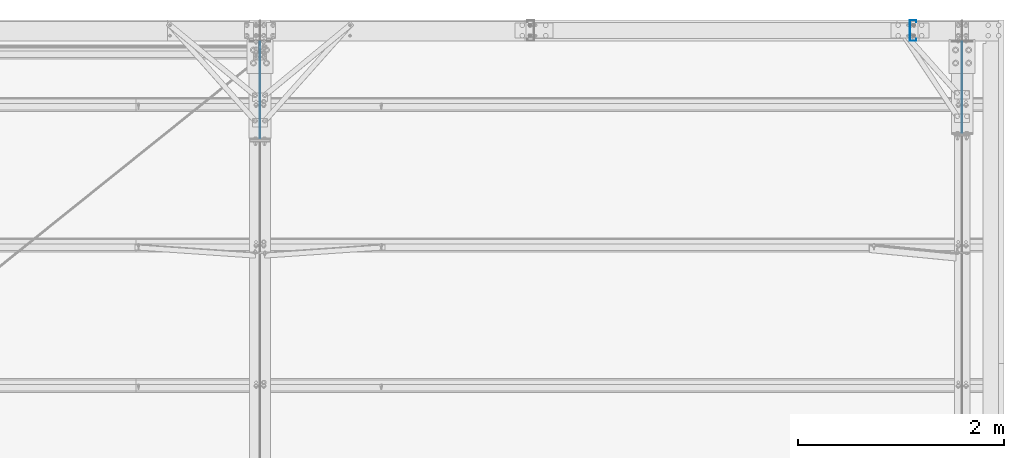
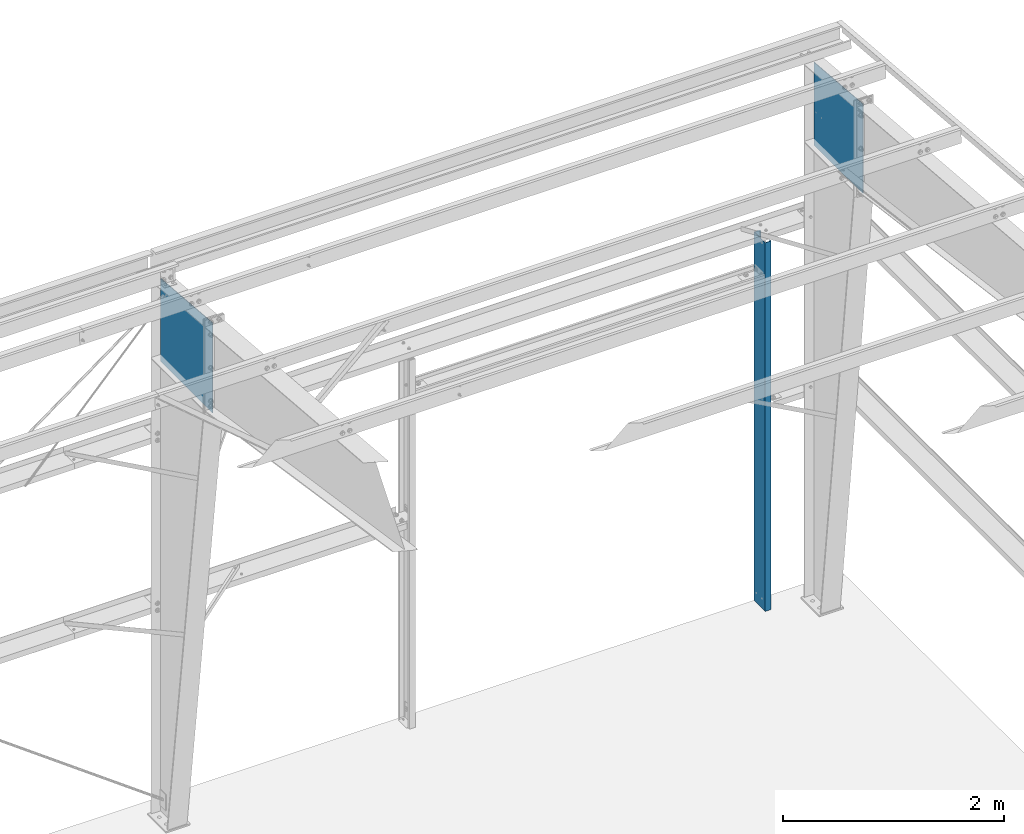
# One storey, part 5 of 185: 3 columns, 3 elements without a shape of their own.
"""IFC2X3 building model written with IfcOpenShell, lengths in millimetres."""

import ifcopenshell
import ifcopenshell.guid

model = None  # the IFC model being written
_history = None  # IfcOwnerHistory: only IFC2X3 demands one
_inside = {}  # id of a spatial element -> (the spatial element, [elements in it])
_under = {}  # id of a project, library or spatial element -> (it, [spatial elements below it])
_declared = {}  # id of a project -> (the project, [libraries it declares])
_typed = {}  # id of a type object -> (the type object, [elements of that type])
_made_of = {}  # id of a material, layer set ... -> (it, [elements and type objects made of it])


def new_model(schema):
    """Start an empty IFC model of exactly this schema.

    Asked for "IFC4X3", IfcOpenShell would pick the latest addendum, in which some entities
    have other attributes; the version numbers below select the first issue.
    IFC2X3 requires an IfcOwnerHistory on every rooted entity: one is made here for all.
    """
    global model, _history
    if schema == "IFC4X3":
        model = ifcopenshell.file(schema_version=(4, 3, 0, 0))
    else:
        model = ifcopenshell.file(schema=schema)
    _inside.clear()
    _under.clear()
    _declared.clear()
    _typed.clear()
    _made_of.clear()
    _history = None
    if model.schema == "IFC2X3":
        org = make("IfcOrganization", Name="unknown")
        user = make(
            "IfcPersonAndOrganization",
            ThePerson=make("IfcPerson", FamilyName="unknown"),
            TheOrganization=org,
        )
        app = make(
            "IfcApplication",
            ApplicationDeveloper=org,
            Version="unknown",
            ApplicationFullName="unknown",
            ApplicationIdentifier="unknown",
        )
        _history = make(
            "IfcOwnerHistory",
            OwningUser=user,
            OwningApplication=app,
            ChangeAction="ADDED",
            CreationDate=0,
        )
    return model


def make(cls, **values):
    """One entity of the class cls with the attributes given. An attribute that is None is left unset."""
    return model.create_entity(
        cls, **{name: value for name, value in values.items() if value is not None}
    )


def rooted(cls, **values):
    """An entity with a GlobalId (a new one), such as an element, a storey or a relation."""
    return make(cls, GlobalId=ifcopenshell.guid.new(), OwnerHistory=_history, **values)


def si_unit(unit_type, name, prefix=None):
    """IfcSIUnit, for example si_unit("LENGTHUNIT", "METRE", prefix="MILLI")."""
    return make("IfcSIUnit", UnitType=unit_type, Prefix=prefix, Name=name)


def assignment(units):
    """IfcUnitAssignment: the units of a project."""
    return None if units is None else make("IfcUnitAssignment", Units=units)


def point(xyz):
    """IfcCartesianPoint."""
    return None if xyz is None else make("IfcCartesianPoint", Coordinates=xyz)


def direction(xyz):
    """IfcDirection."""
    return None if xyz is None else make("IfcDirection", DirectionRatios=xyz)


def frame(location, z_axis=None, x_axis=None):
    """IfcAxis2Placement3D, a coordinate frame: its origin and axes. An axis left out is left unset."""
    return make(
        "IfcAxis2Placement3D",
        Location=point(location),
        Axis=direction(z_axis),
        RefDirection=direction(x_axis),
    )


def frame_2d(location, x_axis=None):
    """IfcAxis2Placement2D, a coordinate frame in the plane: its origin and x axis."""
    return make(
        "IfcAxis2Placement2D", Location=point(location), RefDirection=direction(x_axis)
    )


def origin_with_axes():
    """The frame at (0, 0, 0) with the z axis (0, 0, 1) and the x axis (1, 0, 0) written out."""
    return frame((0.0, 0.0, 0.0), z_axis=(0.0, 0.0, 1.0), x_axis=(1.0, 0.0, 0.0))


def origin_2d_with_axis():
    """The frame at (0, 0) in the plane with the x axis (1, 0) written out."""
    return frame_2d((0.0, 0.0), x_axis=(1.0, 0.0))


def place(relative_to, where):
    """IfcLocalPlacement: puts the frame where relative to a parent placement (None: the world)."""
    return make(
        "IfcLocalPlacement", PlacementRelTo=relative_to, RelativePlacement=where
    )


def context(
    kind, dimensions, precision=None, world=None, true_north=None, identifier=None
):
    """IfcGeometricRepresentationContext, for example the 3D "Model" context."""
    return make(
        "IfcGeometricRepresentationContext",
        ContextIdentifier=identifier,
        ContextType=kind,
        CoordinateSpaceDimension=dimensions,
        Precision=precision,
        WorldCoordinateSystem=world,
        TrueNorth=true_north,
    )


def subcontext(parent, identifier, kind, view, scale=None):
    """IfcGeometricRepresentationSubContext, for example "Body" below "Model"."""
    return make(
        "IfcGeometricRepresentationSubContext",
        ContextIdentifier=identifier,
        ContextType=kind,
        ParentContext=parent,
        TargetScale=scale,
        TargetView=view,
    )


def project(units=None, contexts=None):
    """IfcProject with its units and contexts."""
    return rooted(
        "IfcProject",
        Name="project",
        RepresentationContexts=contexts,
        UnitsInContext=assignment(units),
    )


def spatial(cls, under=None, at=None, **own):
    """A site, building, storey or space (cls), placed at a placement, below another one or the project."""
    s = rooted(cls, ObjectPlacement=at, **own)
    if under is not None:
        _under.setdefault(under.id(), (under, []))[1].append(s)
    return s


def polyline(points):
    """IfcPolyline through the points."""
    return make("IfcPolyline", Points=[point(p) for p in points])


def profile(cls, at=None, kind="AREA", **sizes):
    """A parametric profile (cls). Its sizes go by their IFC names, for example OverallWidth=200.0."""
    return make(cls, ProfileType=kind, Position=at, **sizes)


def rectangle(**sizes):
    """IfcRectangleProfileDef."""
    return profile("IfcRectangleProfileDef", **sizes)


def outline(outer, holes=None, kind="AREA"):
    """IfcArbitraryClosedProfileDef: a profile drawn as a closed curve; with holes, ...WithVoids."""
    if holes is None:
        return make("IfcArbitraryClosedProfileDef", ProfileType=kind, OuterCurve=outer)
    return make(
        "IfcArbitraryProfileDefWithVoids",
        ProfileType=kind,
        OuterCurve=outer,
        InnerCurves=holes,
    )


def extrude(swept, where, along, depth):
    """IfcExtrudedAreaSolid: the profile swept, set in the frame where, extruded along a direction by depth."""
    return make(
        "IfcExtrudedAreaSolid",
        SweptArea=swept,
        Position=where,
        ExtrudedDirection=direction(along),
        Depth=depth,
    )


def clip(a, b, op="DIFFERENCE"):
    """IfcBooleanClippingResult: the solid a cut by the half space b."""
    return make(
        "IfcBooleanClippingResult", Operator=op, FirstOperand=a, SecondOperand=b
    )


def halfspace(plane, agree):
    """IfcHalfSpaceSolid: all space on one side of the plane z = 0 of the frame plane."""
    return make(
        "IfcHalfSpaceSolid",
        BaseSurface=make("IfcPlane", Position=plane),
        AgreementFlag=agree,
    )


def shape(context_of_items, identifier, shape_type, items):
    """IfcShapeRepresentation: the items that make up one representation, for example the "Body"."""
    return make(
        "IfcShapeRepresentation",
        ContextOfItems=context_of_items,
        RepresentationIdentifier=identifier,
        RepresentationType=shape_type,
        Items=items,
    )


def material(Name=None, Category=None):
    """IfcMaterial."""
    return make("IfcMaterial", Name=Name, Category=Category)


def made_of(thing, what):
    """Note that an element or type object is made of a material, layer set ...; save() writes the relation."""
    if what is not None:
        _made_of.setdefault(what.id(), (what, []))[1].append(thing)
    return thing


def type_object(cls, material=None, **own):
    """A type object (cls), such as IfcWallType, which elements share."""
    return made_of(rooted(cls, **own), material)


def element(
    cls,
    number,
    at=None,
    inside=None,
    cuts=None,
    type_object=None,
    material=None,
    context=None,
    identifier="Body",
    shape_type=None,
    held_by="IfcProductDefinitionShape",
    body=None,
    shapes=None,
    **own,
):
    """One element of the class cls, such as IfcWall. Its Tag is "e" and its number.

    at: its placement. inside: the storey or other place that contains it. cuts: it is an
    opening in that element (IfcRelVoidsElement). A single representation is given by context,
    identifier, shape_type and body (its items); several are given by shapes. held_by: the class
    of the entity that holds the representations. save() writes the other relations.
    """
    e = rooted(cls, Tag="e%d" % number, ObjectPlacement=at, **own)
    if body is not None:
        shapes = [shape(context, identifier, shape_type, body)]
    if shapes is not None:
        e.Representation = make(held_by, Representations=shapes)
    if inside is not None:
        _inside.setdefault(inside.id(), (inside, []))[1].append(e)
    if cuts is not None:
        rooted(
            "IfcRelVoidsElement", RelatingBuildingElement=cuts, RelatedOpeningElement=e
        )
    if type_object is not None:
        _typed.setdefault(type_object.id(), (type_object, []))[1].append(e)
    return made_of(e, material)


def aggregate(whole, parts):
    """IfcRelAggregates: a whole, such as a stair, and the parts it consists of."""
    return rooted("IfcRelAggregates", RelatingObject=whole, RelatedObjects=parts)


def save(model, path):
    """Write the relations noted so far, then the file.

    IfcRelAggregates (storeys below a building ...), IfcRelContainedInSpatialStructure (elements
    in a storey), IfcRelDefinesByType, IfcRelAssociatesMaterial and IfcRelDeclares: one each for
    every whole, place, type object, material and project.
    """
    for whole, parts in _under.values():
        aggregate(whole, parts)
    for where, things in _inside.values():
        rooted(
            "IfcRelContainedInSpatialStructure",
            RelatedElements=things,
            RelatingStructure=where,
        )
    for kind, things in _typed.values():
        rooted("IfcRelDefinesByType", RelatedObjects=things, RelatingType=kind)
    for what, things in _made_of.values():
        rooted("IfcRelAssociatesMaterial", RelatedObjects=things, RelatingMaterial=what)
    for by, libraries in _declared.values():
        rooted("IfcRelDeclares", RelatingContext=by, RelatedDefinitions=libraries)
    model.write(path)


model = new_model("IFC2X3")

# Units and contexts
model_context = context("Model", 3, precision=1e-05, world=origin_with_axes())
body_context = subcontext(model_context, "Body", "Model", "MODEL_VIEW")
ifc_project = project(units=[si_unit("LENGTHUNIT", "METRE", prefix="MILLI"), si_unit("AREAUNIT", "SQUARE_METRE"), si_unit("VOLUMEUNIT", "CUBIC_METRE"), si_unit("MASSUNIT", "GRAM", prefix="KILO"), si_unit("TIMEUNIT", "SECOND"), si_unit("PLANEANGLEUNIT", "RADIAN"), si_unit("SOLIDANGLEUNIT", "STERADIAN"), si_unit("THERMODYNAMICTEMPERATUREUNIT", "DEGREE_CELSIUS"), si_unit("LUMINOUSINTENSITYUNIT", "LUMEN")], contexts=[model_context])

# Site, building, storey
site_placement = place(None, origin_with_axes())
site = spatial("IfcSite", under=ifc_project, at=site_placement, Name="Undefined", CompositionType="ELEMENT")
building_placement = place(site_placement, origin_with_axes())
building = spatial("IfcBuilding", under=site, at=building_placement, Name="Undefined", CompositionType="ELEMENT")
storey_placement = place(building_placement, origin_with_axes())
storey = spatial("IfcBuildingStorey", under=building, at=storey_placement, Name="Undefined", CompositionType="ELEMENT", Elevation=0.0)

# Assembly, column
assembly_1_placement = place(storey_placement, origin_with_axes())
assembly_1 = element("IfcElementAssembly", 1, at=assembly_1_placement, inside=storey, Name="Steel Assembly", AssemblyPlace="NOTDEFINED", PredefinedType="RIGID_FRAME")
ifc_material = material(Name="STEEL/55")
column_type_1 = type_object("IfcColumnType", Name="8C16", PredefinedType="NOTDEFINED")
column_1_placement = place(assembly_1_placement, frame((44075.35, 31902.4, 0.0), z_axis=(0.0, 0.0, 1.0), x_axis=(0.0, 1.0, 0.0)))
column_1 = element("IfcColumn", 2, at=column_1_placement, type_object=column_type_1, material=ifc_material, Name="Jamb", ObjectType="8C16", context=body_context, shape_type="Clipping", body=[
    clip(extrude(outline(polyline([(-31.75, 79.370002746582), (-31.75, 101.599998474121), (31.75, 101.599998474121), (31.75, -101.599998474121), (-31.75, -101.599998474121), (-31.75, -79.379997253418), (-28.5699996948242, -79.379997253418), (-28.5699996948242, -98.4300003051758), (28.5699996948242, -98.4300003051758), (28.5699996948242, 98.4199981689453), (-28.5699996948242, 98.4199981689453), (-28.5699996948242, 79.370002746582), (-31.75, 79.370002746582)])), frame((0.0, 0.0, 4076.7), z_axis=(0.0, 0.0, -1.0), x_axis=(0.0, 1.0, 0.0)), (0.0, 0.0, 1.0), 4076.7), halfspace(frame((0.0, 28.5699996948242, 4076.7), z_axis=(0.0, 0.0, -1.0), x_axis=(0.0, -1.0, 0.0)), True)),
])
aggregate(assembly_1, [column_1])

assembly_2_placement = place(storey_placement, origin_with_axes())
assembly_2 = element("IfcElementAssembly", 3, at=assembly_2_placement, inside=storey, Name="Steel Assembly", AssemblyPlace="NOTDEFINED", PredefinedType="RIGID_FRAME")
column_type_2 = type_object("IfcColumnType", Name="PL1/4\"X35\"", PredefinedType="NOTDEFINED")
column_2_placement = place(assembly_2_placement, frame((44551.6, 31349.95, 4986.08231443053), z_axis=(0.0, 0.0, 1.0), x_axis=(0.0, 1.0, 0.0)))
column_2 = element("IfcColumn", 4, at=column_2_placement, type_object=column_type_2, material=ifc_material, Name="Web", ObjectType="PL1/4\"X35\"", context=body_context, shape_type="Clipping", body=[
    clip(extrude(rectangle(XDim=6.35, YDim=889.0, at=origin_2d_with_axis()), frame((0.0, 0.0, 991.557590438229), z_axis=(0.0, 0.0, -1.0), x_axis=(0.0, 1.0, 0.0)), (0.0, 0.0, 1.0), 991.6), halfspace(frame((653.522661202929, 0.0, 899.685285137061), z_axis=(-0.0830454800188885, 0.0, -0.996545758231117), x_axis=(0.0, 1.0, 0.0)), True)),
])
aggregate(assembly_2, [column_2])

assembly_3_placement = place(storey_placement, origin_with_axes())
assembly_3 = element("IfcElementAssembly", 5, at=assembly_3_placement, inside=storey, Name="Steel Assembly", AssemblyPlace="NOTDEFINED", PredefinedType="RIGID_FRAME")
column_type_3 = type_object("IfcColumnType", Name="PL5/16\"X37\"", PredefinedType="NOTDEFINED")
column_3_placement = place(assembly_3_placement, frame((37719.0, 31323.026, 4984.52948446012), z_axis=(0.0, 0.0, 1.0), x_axis=(0.0, 1.0, 0.0)))
column_3 = element("IfcColumn", 6, at=column_3_placement, type_object=column_type_3, material=ifc_material, Name="Web", ObjectType="PL5/16\"X37\"", context=body_context, shape_type="Clipping", body=[
    clip(extrude(rectangle(XDim=7.9375, YDim=939.8, at=origin_2d_with_axis()), frame((0.0, 0.0, 995.886173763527), z_axis=(0.0, 0.0, -1.0), x_axis=(0.0, 1.0, 0.0)), (0.0, 0.0, 1.0), 995.9), halfspace(frame((680.31377182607, 0.0, 899.643442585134), z_axis=(-0.0830454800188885, 0.0, -0.996545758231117), x_axis=(0.0, 1.0, 0.0)), True)),
])
aggregate(assembly_3, [column_3])

save(model, "model.ifc")
